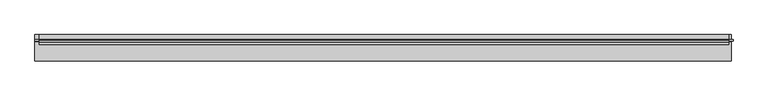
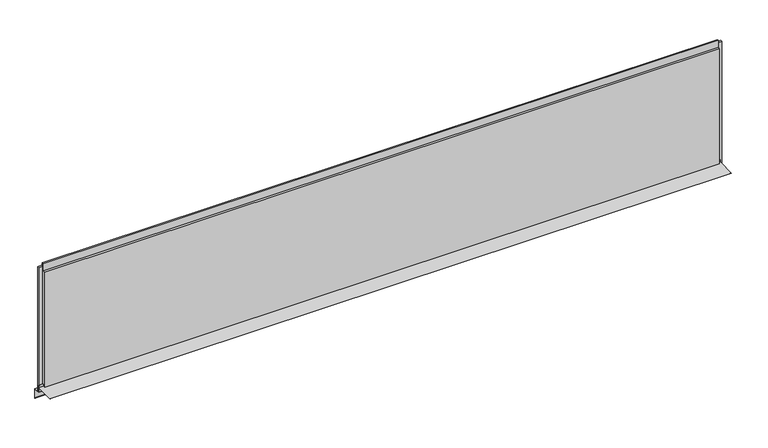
"""IFC4 building model written with IfcOpenShell, lengths in millimetres: plate geometry, Trimo_Qbiss Screen_Normal Panel-HORIZONTAL : HR - B."""

from ifc_helpers import new_model, si_unit, frame, origin, place, context, project, spatial, polyline, outline, extrude, source, transform, mapped, element, save


def plate_b5698dad(model_context):
    return source(origin(), model_context, "Body", "SweptSolid", [
        extrude(outline(polyline([(66.7, 14.0835797), (67.5, 14.0835797), (67.5, -23.0), (100.0, -25.8433816), (100.0, -76.0), (87.1509533, -63.1509533), (87.7166388, -62.5852679), (99.2, -74.0686292), (99.2, -26.5764465), (66.7, -23.7330649), (66.7, 1.0), (-32.5, 1.0), (-32.5, 1.8), (66.7, 1.8), (66.7, 14.0835797)])), frame((-1689.9, 0.0, 0.0), z_axis=(1.0, 0.0, 0.0), x_axis=(0.0, 1.0, 0.0)), (0.0, 0.0, 1.0), 3482.8),
        extrude(outline(polyline([(-1670.9, 76.5978162), (-1670.9, 67.8978162), (-1689.9, 67.8978162), (-1689.9, 76.5978162), (-1670.9, 76.5978162)])), frame((0.0, 0.0, -20.0), z_axis=(0.0, 0.0, 1.0), x_axis=(1.0, 0.0, 0.0)), (0.0, 0.0, 1.0), 669.0),
        extrude(outline(polyline([(1783.4, 67.8978162), (1783.4, 76.5978162), (1802.4, 76.5978162), (1802.4, 67.8978162), (1783.4, 67.8978162)])), frame((0.0, 0.0, -20.0), z_axis=(0.0, 0.0, 1.0), x_axis=(1.0, 0.0, 0.0)), (0.0, 0.0, 1.0), 669.0),
        extrude(outline(polyline([(1780.4, 76.0), (1780.4, 71.0), (-1667.9, 71.0), (-1667.9, 76.0), (1780.4, 76.0)])), frame((0.0, 0.0, 628.0), z_axis=(0.0, 0.0, 1.0), x_axis=(1.0, 0.0, 0.0)), (0.0, 0.0, 1.0), 21.0),
        extrude(outline(polyline([(71.0, 627.0), (100.0, 627.0), (100.0, 0.0), (72.0, 0.0), (72.0, 15.5), (62.0, 15.5), (62.0, 7.0), (50.0, 7.0), (50.0, 627.0), (63.0, 627.0), (63.0, 664.5), (71.0, 664.5), (71.0, 627.0)])), frame((-1667.9, 0.0, 0.0), z_axis=(1.0, 0.0, 0.0), x_axis=(0.0, 1.0, 0.0)), (0.0, 0.0, 1.0), 3448.3),
    ])


if __name__ == "__main__":
    model = new_model("IFC4")
    model_context = context("Model", 3, world=origin())
    ifc_project = project(units=[si_unit("LENGTHUNIT", "METRE", prefix="MILLI")], contexts=[model_context])
    site = spatial("IfcSite", under=ifc_project)
    building = spatial("IfcBuilding", under=site)
    placement = place(None, origin())
    plate_shape = plate_b5698dad(model_context)
    element("IfcPlate", 1, ObjectType="Trimo_Qbiss Screen_Normal Panel-HORIZONTAL : HR - B", at=placement, inside=building, context=model_context, shape_type="MappedRepresentation", body=[
        mapped(plate_shape, transform((0.0, 0.0, 0.0), x_axis=(1.0, 0.0, 0.0), y_axis=(0.0, 1.0, 0.0), z_axis=(0.0, 0.0, 1.0))),
    ])
    save(model, "model.ifc")
